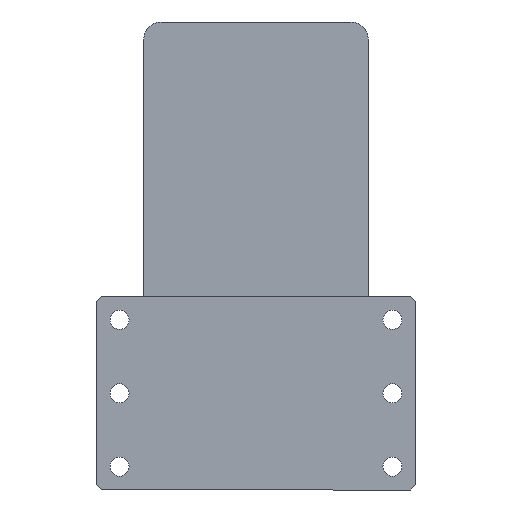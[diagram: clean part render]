
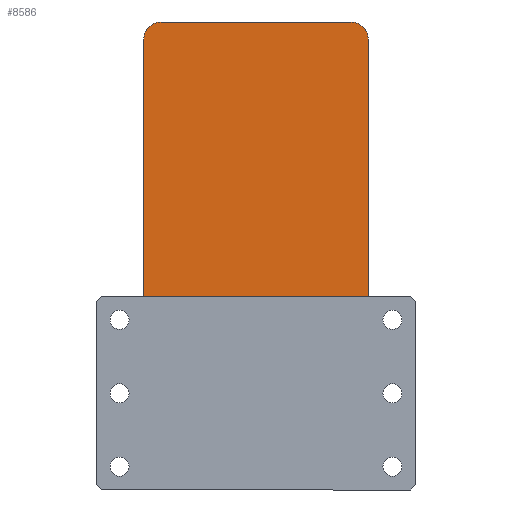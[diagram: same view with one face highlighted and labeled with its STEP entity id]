
A CAD part, left-side view. The second image highlights one B-rep face of the part: STEP entity #8586.
In plain terms, the highlighted planar face has unit normal (-1, 0, 0) as drawn and (0, 0, 1) by its records, which use the part's own axes.
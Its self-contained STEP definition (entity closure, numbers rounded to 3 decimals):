
#108 = EDGE_CURVE ( 'NONE', #6896, #10145, #10841, .T. ) ;
#333 = EDGE_CURVE ( 'NONE', #3624, #9264, #8497, .T. ) ;
#569 = ORIENTED_EDGE ( 'NONE', *, *, #2116, .T. ) ;
#685 = EDGE_LOOP ( 'NONE', ( #959, #7471, #569, #2734, #772, #3944, #2402, #10152 ) ) ;
#772 = ORIENTED_EDGE ( 'NONE', *, *, #108, .T. ) ;
#897 = CARTESIAN_POINT ( 'NONE',  ( 65., 135., 105. ) ) ;
#959 = ORIENTED_EDGE ( 'NONE', *, *, #5860, .T. ) ;
#1096 = DIRECTION ( 'NONE',  ( 0., 1., 0. ) ) ;
#1526 = DIRECTION ( 'NONE',  ( 1., 0., 0. ) ) ;
#1557 = DIRECTION ( 'NONE',  ( 0., 0., 1. ) ) ;
#1562 = CARTESIAN_POINT ( 'NONE',  ( 55., -125., 105. ) ) ;
#1673 = CARTESIAN_POINT ( 'NONE',  ( -65., 125., 105. ) ) ;
#1919 = VERTEX_POINT ( 'NONE', #2049 ) ;
#1981 = EDGE_CURVE ( 'NONE', #5621, #1919, #9447, .T. ) ;
#2049 = CARTESIAN_POINT ( 'NONE',  ( 65., -125., 105. ) ) ;
#2116 = EDGE_CURVE ( 'NONE', #1919, #11830, #8272, .T. ) ;
#2142 = AXIS2_PLACEMENT_3D ( 'NONE', #4603, #4483, #4542 ) ;
#2370 = AXIS2_PLACEMENT_3D ( 'NONE', #1562, #1557, #1526 ) ;
#2402 = ORIENTED_EDGE ( 'NONE', *, *, #11361, .T. ) ;
#2462 = CARTESIAN_POINT ( 'NONE',  ( -65., -135., 105. ) ) ;
#2531 = AXIS2_PLACEMENT_3D ( 'NONE', #9039, #9050, #9093 ) ;
#2634 = LINE ( 'NONE', #7304, #2728 ) ;
#2661 = DIRECTION ( 'NONE',  ( 1., 0., 0. ) ) ;
#2728 = VECTOR ( 'NONE', #7388, 1000. ) ;
#2734 = ORIENTED_EDGE ( 'NONE', *, *, #6281, .T. ) ;
#3624 = VERTEX_POINT ( 'NONE', #7398 ) ;
#3944 = ORIENTED_EDGE ( 'NONE', *, *, #9745, .T. ) ;
#4061 = AXIS2_PLACEMENT_3D ( 'NONE', #9872, #6399, #11136 ) ;
#4074 = VECTOR ( 'NONE', #2661, 1000. ) ;
#4397 = LINE ( 'NONE', #2462, #4074 ) ;
#4483 = DIRECTION ( 'NONE',  ( 0., 0., 1. ) ) ;
#4542 = DIRECTION ( 'NONE',  ( 1., 0., 0. ) ) ;
#4603 = CARTESIAN_POINT ( 'NONE',  ( 55., 125., 105. ) ) ;
#4936 = DIRECTION ( 'NONE',  ( 0., 0., 1. ) ) ;
#5272 = CARTESIAN_POINT ( 'NONE',  ( 55., -135., 105. ) ) ;
#5576 = CIRCLE ( 'NONE', #10571, 10. ) ;
#5621 = VERTEX_POINT ( 'NONE', #5272 ) ;
#5860 = EDGE_CURVE ( 'NONE', #9264, #5621, #4397, .T. ) ;
#6136 = CARTESIAN_POINT ( 'NONE',  ( 55., 135., 105. ) ) ;
#6281 = EDGE_CURVE ( 'NONE', #11830, #6896, #11273, .T. ) ;
#6399 = DIRECTION ( 'NONE',  ( 0., 0., 1. ) ) ;
#6896 = VERTEX_POINT ( 'NONE', #6136 ) ;
#7157 = CARTESIAN_POINT ( 'NONE',  ( -55., -135., 105. ) ) ;
#7258 = CARTESIAN_POINT ( 'NONE',  ( -65., 135., 105. ) ) ;
#7304 = CARTESIAN_POINT ( 'NONE',  ( -65., 135., 105. ) ) ;
#7388 = DIRECTION ( 'NONE',  ( 0., -1., 0. ) ) ;
#7398 = CARTESIAN_POINT ( 'NONE',  ( -65., -125., 105. ) ) ;
#7404 = FACE_OUTER_BOUND ( 'NONE', #685, .T. ) ;
#7431 = DIRECTION ( 'NONE',  ( -1., 0., 0. ) ) ;
#7471 = ORIENTED_EDGE ( 'NONE', *, *, #1981, .T. ) ;
#8272 = LINE ( 'NONE', #897, #8284 ) ;
#8284 = VECTOR ( 'NONE', #1096, 1000. ) ;
#8497 = CIRCLE ( 'NONE', #2531, 10. ) ;
#8586 = ADVANCED_FACE ( 'NONE', ( #7404 ), #11069, .T. ) ;
#9039 = CARTESIAN_POINT ( 'NONE',  ( -55., -125., 105. ) ) ;
#9050 = DIRECTION ( 'NONE',  ( 0., 0., 1. ) ) ;
#9093 = DIRECTION ( 'NONE',  ( 1., 0., 0. ) ) ;
#9264 = VERTEX_POINT ( 'NONE', #7157 ) ;
#9280 = CARTESIAN_POINT ( 'NONE',  ( -55., 125., 105. ) ) ;
#9447 = CIRCLE ( 'NONE', #2370, 10. ) ;
#9622 = DIRECTION ( 'NONE',  ( 1., 0., 0. ) ) ;
#9745 = EDGE_CURVE ( 'NONE', #10145, #11673, #5576, .T. ) ;
#9872 = CARTESIAN_POINT ( 'NONE',  ( 0., 0., 105. ) ) ;
#9891 = CARTESIAN_POINT ( 'NONE',  ( 65., 125., 105. ) ) ;
#10145 = VERTEX_POINT ( 'NONE', #11598 ) ;
#10152 = ORIENTED_EDGE ( 'NONE', *, *, #333, .T. ) ;
#10571 = AXIS2_PLACEMENT_3D ( 'NONE', #9280, #4936, #9622 ) ;
#10612 = VECTOR ( 'NONE', #7431, 1000. ) ;
#10841 = LINE ( 'NONE', #7258, #10612 ) ;
#11069 = PLANE ( 'NONE',  #4061 ) ;
#11136 = DIRECTION ( 'NONE',  ( 1., 0., 0. ) ) ;
#11273 = CIRCLE ( 'NONE', #2142, 10. ) ;
#11361 = EDGE_CURVE ( 'NONE', #11673, #3624, #2634, .T. ) ;
#11598 = CARTESIAN_POINT ( 'NONE',  ( -55., 135., 105. ) ) ;
#11673 = VERTEX_POINT ( 'NONE', #1673 ) ;
#11830 = VERTEX_POINT ( 'NONE', #9891 ) ;
